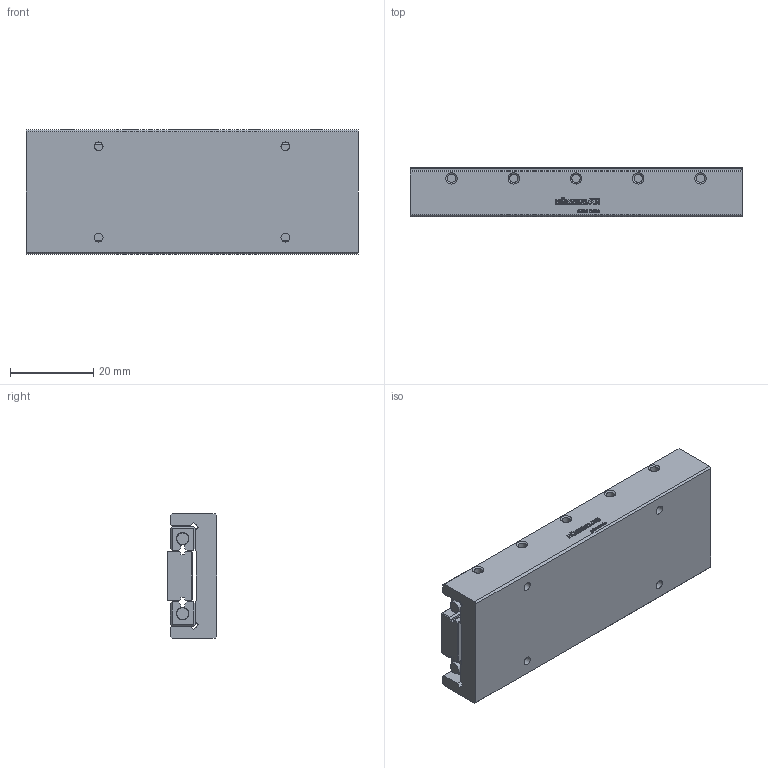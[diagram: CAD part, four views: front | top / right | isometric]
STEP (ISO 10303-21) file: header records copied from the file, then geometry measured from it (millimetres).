
FILE_DESCRIPTION(/* description */ ('STEP AP214'),/* implementation_level */ '2;1');
FILE_NAME(/* name */ 'ND 2-80.50(0)',/* time_stamp */ '2025-04-22T17:44:06+02:00',/* author */ ('License CC BY-ND 4.0'),/* organization */ ('CADENAS'),/* preprocessor_version */ 'ST-DEVELOPER v19.3',/* originating_system */ 'PARTsolutions',/* authorisation */ ' ');
FILE_SCHEMA (('AUTOMOTIVE_DESIGN {1 0 10303 214 3 1 1}'));
Length unit declared in the file: millimetre
Products named in the file (4): ND 2-80.50(0); ND 2-80.50+SQ+OF_(0)_1; ND 2-80.50+SQ+OF_(0)_2; ND 2-80.50+SQ+OF_(0)_3
Assembly tree (4 placements, depth 2):
  ND 2-80.50(0)
    ND 2-80.50+SQ+OF_(0)_1
    ND 2-80.50+SQ+OF_(0)_2
    ND 2-80.50+SQ+OF_(0)_3  x2
Bounding box: 80 x 12 x 30 mm (x, y, z)
Volume: 24408.4 mm3; surface area: 15935.6 mm2
Topology: 4 solids, 4 shells, 662 faces, 1807 edges, 1194 vertices
Faces by surface type: cylinder 332, plane 297, cone 29, torus 4
Full cylindrical faces by diameter (mm): 1.49 x4, 1.977 x5, 2 x10, 2.113 x4, 4.5 x10, 4.917 x5
Entity records: 19601 total; most frequent: DIRECTION 3542, CARTESIAN_POINT 3365, ORIENTED_EDGE 3272, EDGE_CURVE 1636, AXIS2_PLACEMENT_3D 1291, VERTEX_POINT 1114, LINE 960, VECTOR 960
